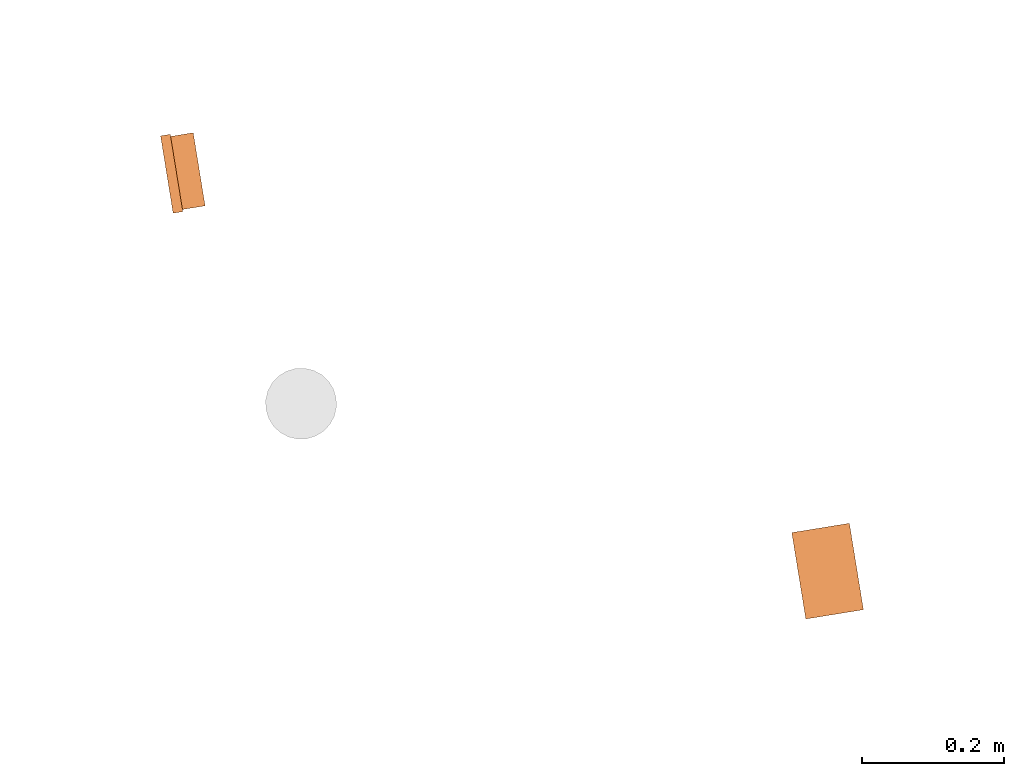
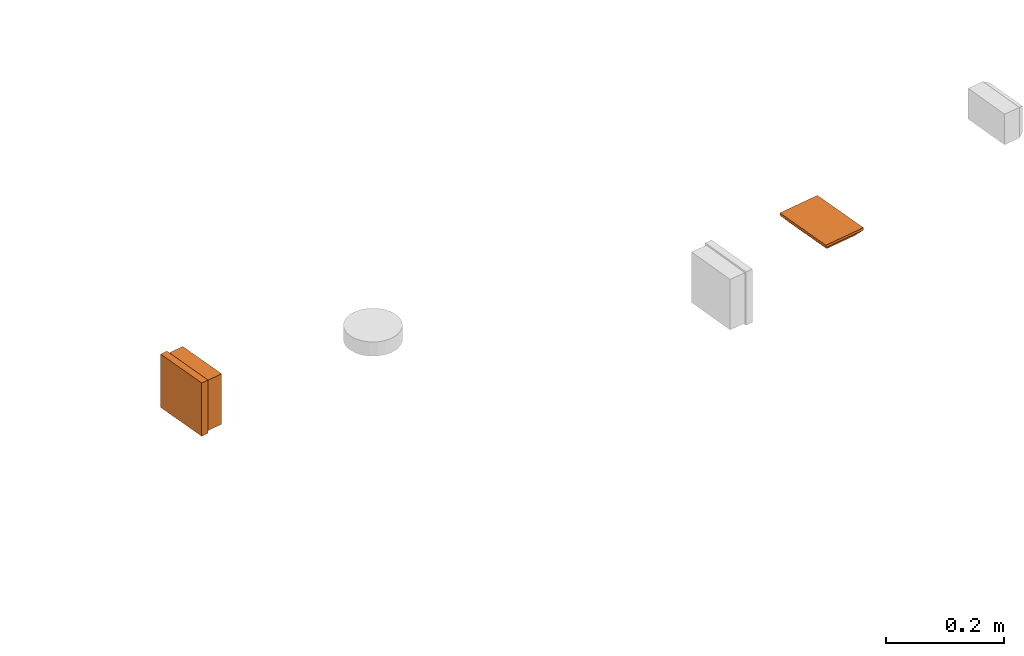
# One storey, part 21 of 33: 2 proxies.
"""IFC2X3 building model written with IfcOpenShell, lengths in millimetres."""

from ifc_helpers import new_model, entity, si_unit, converted_unit, derived_unit, direction, frame, frame_2d, origin, origin_with_axes, origin_2d_with_axis, place, context, subcontext, project, spatial, rectangle, extrude, faceted_brep, source, transform, mapped, material, type_object, element, save


model = new_model("IFC2X3")

# Units and contexts
plan_context = context("Plan", 3, precision=1e-05, world=origin_with_axes())
model_context = context("Model", 3, precision=0.01, world=origin(), true_north=direction((6.12323399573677e-17, 1.0)))
body_context = subcontext(model_context, "Body", "Model", "MODEL_VIEW")
ifc_project = project(units=[converted_unit("PLANEANGLEUNIT", "DEGREE", entity("IfcPositiveLengthMeasure", 0.0174532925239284), si_unit("PLANEANGLEUNIT", "RADIAN"), dimensions=[0, 0, 0, 0, 0, 0, 0]), si_unit("AREAUNIT", "SQUARE_METRE"), si_unit("LENGTHUNIT", "METRE", prefix="MILLI"), si_unit("MASSUNIT", "GRAM", prefix="KILO"), si_unit("POWERUNIT", "WATT"), si_unit("PRESSUREUNIT", "PASCAL", prefix="KILO"), si_unit("FORCEUNIT", "NEWTON", prefix="KILO"), si_unit("ELECTRICVOLTAGEUNIT", "VOLT"), si_unit("ELECTRICCURRENTUNIT", "AMPERE"), si_unit("THERMODYNAMICTEMPERATUREUNIT", "DEGREE_CELSIUS"), si_unit("TIMEUNIT", "SECOND"), si_unit("VOLUMEUNIT", "CUBIC_METRE"), derived_unit("LINEARVELOCITYUNIT", [(si_unit("LENGTHUNIT", "METRE"), 1), (si_unit("TIMEUNIT", "SECOND"), -1)]), derived_unit("VOLUMETRICFLOWRATEUNIT", [(si_unit("VOLUMEUNIT", "CUBIC_METRE"), 1), (si_unit("TIMEUNIT", "SECOND"), -1)]), derived_unit("THERMALTRANSMITTANCEUNIT", [(si_unit("POWERUNIT", "WATT"), 1), (si_unit("THERMODYNAMICTEMPERATUREUNIT", "KELVIN"), -1), (si_unit("AREAUNIT", "SQUARE_METRE"), -1)]), derived_unit("SOUNDPRESSUREUNIT", [(si_unit("PRESSUREUNIT", "PASCAL"), 1)])], contexts=[model_context, plan_context])

# Site, building, storey
site_placement = place(None, frame((-0.219946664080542, 0.12226179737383, 0.0), z_axis=(0.0, 0.0, 1.0), x_axis=(-0.160236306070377, 0.987078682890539, 0.0)))
site = spatial("IfcSite", under=ifc_project, at=site_placement, Name="Default", CompositionType="ELEMENT")
building_placement = place(site_placement, origin_with_axes())
building = spatial("IfcBuilding", under=site, at=building_placement, CompositionType="ELEMENT")
storey_placement = place(building_placement, frame((0.0, 0.0, 59000.0), z_axis=(0.0, 0.0, 1.0), x_axis=(1.0, 0.0, 0.0)))
storey = spatial("IfcBuildingStorey", under=building, at=storey_placement, Name="Nivå F", CompositionType="ELEMENT", Elevation=59000.0)

# Proxies
ifc_material = material(Name="<Unnamed>")
building_element_proxy_type_1 = type_object("IfcBuildingElementProxyType", Name="1612510-0001:Junction box1", PredefinedType="NOTDEFINED", material=ifc_material)
shared_shape_1 = source(origin(), body_context, "Body", "SweptSolid", [
    extrude(rectangle(XDim=110.0, YDim=13.8000001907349, at=frame_2d((0.0, 2.22044604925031e-15), x_axis=(1.0, 0.0))), frame((0.0, 39.1000008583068, -55.0)), (0.0, 0.0, 1.0), 110.0),
    extrude(rectangle(XDim=104.0, YDim=32.2000007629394, at=origin_2d_with_axis()), frame((0.0, 16.1000003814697, -52.0)), (0.0, 0.0, 1.0), 104.0),
])
proxy_1_placement = place(storey_placement, frame((780014.167317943, -501767.199558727, 2426.25354764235), z_axis=(0.0, 0.0, 1.0), x_axis=(1.0, 0.0, 0.0)))
element("IfcBuildingElementProxy", 1, at=proxy_1_placement, inside=storey, type_object=building_element_proxy_type_1, material=ifc_material, Name="1612510-0001:Junction box1", ObjectType="1612510-0001:Junction box1", context=body_context, shape_type="MappedRepresentation", body=[
    mapped(shared_shape_1, transform((0.0, 0.0, 0.0), scale=1.0)),
])
building_element_proxy_type_2 = type_object("IfcBuildingElementProxyType", Name="Dobbel stikk i tak m_boks 2P+J PH:Earthed reces socket c2", PredefinedType="NOTDEFINED", material=ifc_material)
shared_shape_2 = source(origin(), body_context, "Body", "Brep", [
    faceted_brep([(25.250000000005, -18.3000000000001, -17.8944271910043), (25.250000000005, -18.5954451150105, -17.489897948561), (25.250000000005, -18.7000000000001, -17.0), (25.250000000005, -18.7000000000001, -5.0), (25.250000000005, -19.5000000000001, -5.0), (25.250000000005, -19.5000000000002, -17.0), (25.250000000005, -18.9142135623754, -18.4142135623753), (25.250000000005, -17.5000000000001, -19.0), (25.250000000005, -17.5000000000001, -11.0), (25.250000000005, -18.3000000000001, -11.0), (24.250000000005, -19.5000000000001, -5.0), (24.250000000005, -18.7000000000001, -5.0), (24.250000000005, -18.7000000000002, -17.0), (24.250000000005, -18.5954451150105, -17.489897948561), (24.250000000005, -18.3000000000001, -17.8944271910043), (24.250000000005, -18.3000000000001, -11.0), (24.250000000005, -17.5000000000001, -11.0), (24.250000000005, -17.5000000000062, -19.0), (24.250000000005, -18.9142135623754, -18.4142135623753), (24.250000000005, -19.5000000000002, -17.0)], [[[0, 1, 2, 3, 4, 5, 6, 7, 8, 9]], [[10, 11, 12, 13, 14, 15, 16, 17, 18, 19]], [[11, 10, 4, 3]], [[12, 11, 3, 2]], [[2, 1, 13, 12]], [[0, 14, 13, 1]], [[15, 14, 0, 9]], [[16, 15, 9, 8]], [[17, 16, 8, 7]], [[17, 7, 6, 18]], [[6, 5, 19, 18]], [[10, 19, 5, 4]]]),
    faceted_brep([(24.250000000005, 18.3000000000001, -17.8944271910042), (24.250000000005, 18.5954451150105, -17.4898979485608), (24.250000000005, 18.7000000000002, -17.0), (24.250000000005, 18.7000000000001, -5.0), (24.250000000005, 19.5000000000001, -5.0), (24.250000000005, 19.5000000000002, -17.0), (24.250000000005, 18.9142135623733, -18.4142135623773), (24.250000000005, 17.5000000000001, -19.0), (24.250000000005, 17.5000000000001, -11.0), (24.250000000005, 18.3000000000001, -11.0), (25.250000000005, 19.5000000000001, -5.0), (25.250000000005, 18.7000000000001, -5.0), (25.250000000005, 18.7000000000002, -17.0), (25.250000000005, 18.5954451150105, -17.4898979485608), (25.250000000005, 18.3000000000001, -17.8944271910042), (25.250000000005, 18.3000000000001, -11.0), (25.250000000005, 17.5000000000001, -11.0), (25.250000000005, 17.5000000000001, -19.0), (25.250000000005, 18.9142135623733, -18.4142135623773), (25.250000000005, 19.5000000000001, -17.0)], [[[0, 1, 2, 3, 4, 5, 6, 7, 8, 9]], [[10, 11, 12, 13, 14, 15, 16, 17, 18, 19]], [[9, 8, 16, 15]], [[0, 9, 15, 14]], [[14, 13, 1, 0]], [[12, 2, 1, 13]], [[3, 2, 12, 11]], [[4, 3, 11, 10]], [[5, 4, 10, 19]], [[5, 19, 18, 6]], [[18, 17, 7, 6]], [[8, 7, 17, 16]]]),
    faceted_brep([(-25.249999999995, 18.9142135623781, -18.4142135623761), (-25.249999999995, 19.5000000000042, -17.0), (-25.249999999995, 19.5000000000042, -5.0), (-25.249999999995, 18.7000000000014, -5.0), (-25.249999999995, 18.7000000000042, -17.0), (-25.249999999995, 18.5954451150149, -17.4898979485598), (-25.249999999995, 18.3000000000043, -17.8944271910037), (-25.249999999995, 18.3000000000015, -11.0), (-25.249999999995, 17.5000000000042, -11.0), (-25.249999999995, 17.5000000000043, -19.0), (-26.249999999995, 19.5000000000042, -5.0), (-26.249999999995, 19.5000000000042, -17.0), (-26.249999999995, 18.9142135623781, -18.4142135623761), (-26.249999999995, 17.5000000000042, -19.0), (-26.249999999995, 17.5000000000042, -11.0), (-26.249999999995, 18.3000000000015, -11.0), (-26.249999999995, 18.3000000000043, -17.8944271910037), (-26.249999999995, 18.5954451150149, -17.4898979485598), (-26.249999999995, 18.7000000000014, -17.0), (-26.249999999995, 18.7000000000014, -5.0)], [[[0, 1, 2, 3, 4, 5, 6, 7, 8, 9]], [[10, 11, 12, 13, 14, 15, 16, 17, 18, 19]], [[11, 10, 2, 1]], [[11, 1, 0, 12]], [[0, 9, 13, 12]], [[14, 13, 9, 8]], [[16, 15, 7, 6]], [[6, 5, 17, 16]], [[4, 18, 17, 5]], [[19, 18, 4, 3]], [[10, 19, 3, 2]], [[15, 14, 8, 7]]]),
    faceted_brep([(-26.249999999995, -17.4999999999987, -5.0), (-26.249999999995, -17.4999999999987, -19.0), (-26.249999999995, -18.9142135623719, -18.4142135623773), (-26.249999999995, -19.4999999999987, -17.0), (-26.249999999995, -19.4999999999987, -11.0), (-26.249999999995, -18.6999999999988, -11.0), (-26.249999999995, -18.6999999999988, -17.0), (-26.249999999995, -18.5954451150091, -17.4898979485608), (-26.249999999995, -18.2999999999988, -17.8944271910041), (-26.249999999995, -18.2999999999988, -5.0), (-25.249999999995, -17.4999999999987, -19.0), (-25.249999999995, -17.4999999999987, -5.0), (-25.249999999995, -18.2999999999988, -5.0), (-25.249999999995, -18.2999999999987, -17.8944271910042), (-25.249999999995, -18.5954451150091, -17.4898979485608), (-25.249999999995, -18.6999999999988, -17.0), (-25.249999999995, -18.6999999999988, -11.0), (-25.249999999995, -19.4999999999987, -11.0), (-25.249999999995, -19.4999999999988, -17.0), (-25.249999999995, -18.9142135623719, -18.4142135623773)], [[[0, 1, 2, 3, 4, 5, 6, 7, 8, 9]], [[10, 11, 12, 13, 14, 15, 16, 17, 18, 19]], [[1, 0, 11, 10]], [[10, 19, 2, 1]], [[2, 19, 18, 3]], [[4, 3, 18, 17]], [[5, 4, 17, 16]], [[6, 5, 16, 15]], [[14, 7, 6, 15]], [[13, 8, 7, 14]], [[9, 8, 13, 12]], [[0, 9, 12, 11]]]),
    faceted_brep([(15.7500000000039, -2.5, -5.0), (16.3750000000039, -1.875, -5.0), (17.0, -1.25, -5.0), (17.6250000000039, -0.625000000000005, -5.0), (18.2500000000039, 0.0, -5.0), (17.7008289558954, 0.54917104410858, -5.0), (17.0, 1.25, -5.0), (16.375000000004, 1.875, -5.0), (15.750000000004, 2.5, -5.0), (15.125000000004, 1.87500000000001, -5.0), (14.500000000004, 1.25000000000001, -5.0), (13.8750000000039, 0.625000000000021, -5.0), (13.2500000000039, 0.0, -5.0), (13.7991710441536, -0.549171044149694, -5.0), (14.5000000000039, -1.25, -5.0), (15.1250000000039, -1.875, -5.0), (17.7008289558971, -0.549171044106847, -5.20000000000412), (17.1516579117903, -1.09834208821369, -5.20000000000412), (16.4508289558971, -1.79917104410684, -5.20000000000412), (15.7500000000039, -2.5, -5.20000000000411), (15.1250000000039, -1.875, -5.20000000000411), (14.5000000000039, -1.25, -5.20000000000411), (13.8750000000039, -0.625, -5.20000000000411), (13.2500000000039, 0.0, -5.2000000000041), (13.7991710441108, 0.54917104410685, -5.20000000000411), (14.3483420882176, 1.09834208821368, -5.20000000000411), (15.0491710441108, 1.79917104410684, -5.20000000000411), (15.750000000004, 2.5, -5.20000000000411), (16.375000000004, 1.875, -5.20000000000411), (17.0, 1.25, -5.20000000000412), (17.6250000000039, 0.624999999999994, -5.20000000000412), (18.2500000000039, 0.0, -5.20000000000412)], [[[0, 1, 2, 3, 4, 5, 6, 7, 8, 9, 10, 11, 12, 13, 14, 15]], [[16, 17, 18, 19, 20, 21, 22, 23, 24, 25, 26, 27, 28, 29, 30, 31]], [[29, 28, 27, 8, 7, 6, 5, 4, 31, 30]], [[8, 27, 26, 25, 24, 23, 12, 11, 10, 9]], [[21, 20, 19, 0, 15, 14, 13, 12, 23, 22]], [[0, 19, 18, 17, 16, 31, 4, 3, 2, 1]]]),
    faceted_brep([(35.0491710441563, -1.79917104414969, -5.20000000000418), (34.348342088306, -1.09834208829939, -5.20000000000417), (33.7991710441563, -0.549171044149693, -5.20000000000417), (33.2500000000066, 0.0, -5.20000000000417), (33.8750000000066, 0.625000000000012, -5.20000000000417), (34.5000000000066, 1.25000000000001, -5.20000000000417), (35.1250000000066, 1.875, -5.20000000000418), (35.7500000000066, 2.5, -5.20000000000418), (36.450828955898, 1.79917104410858, -5.20000000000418), (37.1516579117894, 1.09834208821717, -5.20000000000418), (37.700828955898, 0.54917104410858, -5.20000000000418), (38.2500000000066, 0.0, -5.20000000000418), (37.6250000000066, -0.625000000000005, -5.20000000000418), (37.0, -1.25, -5.20000000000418), (36.3750000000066, -1.875, -5.20000000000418), (35.7500000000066, -2.5, -5.20000000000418), (35.1250000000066, 1.87500000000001, -5.0), (34.5000000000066, 1.25000000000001, -5.0), (33.7991710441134, 0.549171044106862, -5.0), (33.2500000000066, 0.0, -5.0), (33.8750000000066, -0.625, -5.0), (34.5000000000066, -1.25, -5.0), (35.1250000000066, -1.875, -5.0), (35.7500000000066, -2.5, -5.0), (36.3750000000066, -1.875, -5.0), (37.0, -1.25, -5.0), (37.7008289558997, -0.549171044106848, -5.0), (38.2500000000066, 0.0, -5.0), (37.6250000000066, 0.624999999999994, -5.0), (37.0, 1.25, -5.0), (36.3750000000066, 1.875, -5.0), (35.7500000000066, 2.5, -5.0)], [[[0, 1, 2, 3, 4, 5, 6, 7, 8, 9, 10, 11, 12, 13, 14, 15]], [[16, 17, 18, 19, 20, 21, 22, 23, 24, 25, 26, 27, 28, 29, 30, 31]], [[30, 29, 28, 27, 11, 10, 9, 8, 7, 31]], [[31, 7, 6, 5, 4, 3, 19, 18, 17, 16]], [[22, 21, 20, 19, 3, 2, 1, 0, 15, 23]], [[23, 15, 14, 13, 12, 11, 27, 26, 25, 24]]]),
    faceted_brep([(-36.3749999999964, 1.87500000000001, -5.0), (-37.0, 1.25000000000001, -5.0), (-37.6249999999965, 0.625000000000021, -5.0), (-38.2499999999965, 0.0, -5.0), (-37.7008289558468, -0.549171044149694, -5.0), (-37.0, -1.25, -5.0), (-36.3749999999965, -1.875, -5.0), (-35.7499999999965, -2.5, -5.0), (-35.1249999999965, -1.875, -5.0), (-34.4999999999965, -1.25, -5.0), (-33.8749999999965, -0.625000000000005, -5.0), (-33.2499999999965, 0.0, -5.0), (-33.799171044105, 0.54917104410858, -5.0), (-34.4999999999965, 1.25, -5.0), (-35.1249999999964, 1.875, -5.0), (-35.7499999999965, 2.5, -5.0), (-36.3749999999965, -1.875, -5.20000000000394), (-37.0, -1.25, -5.20000000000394), (-37.6249999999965, -0.625, -5.20000000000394), (-38.2499999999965, 0.0, -5.20000000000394), (-37.7008289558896, 0.54917104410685, -5.20000000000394), (-37.1516579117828, 1.09834208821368, -5.20000000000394), (-36.4508289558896, 1.79917104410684, -5.20000000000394), (-35.7499999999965, 2.5, -5.20000000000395), (-35.1249999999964, 1.875, -5.20000000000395), (-34.4999999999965, 1.25, -5.20000000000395), (-33.8749999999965, 0.624999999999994, -5.20000000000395), (-33.2499999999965, 0.0, -5.20000000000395), (-33.7991710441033, -0.549171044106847, -5.20000000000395), (-34.3483420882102, -1.09834208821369, -5.20000000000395), (-35.0491710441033, -1.79917104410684, -5.20000000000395), (-35.7499999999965, -2.5, -5.20000000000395)], [[[0, 1, 2, 3, 4, 5, 6, 7, 8, 9, 10, 11, 12, 13, 14, 15]], [[16, 17, 18, 19, 20, 21, 22, 23, 24, 25, 26, 27, 28, 29, 30, 31]], [[25, 24, 23, 15, 14, 13, 12, 11, 27, 26]], [[15, 23, 22, 21, 20, 19, 3, 2, 1, 0]], [[17, 16, 31, 7, 6, 5, 4, 3, 19, 18]], [[7, 31, 30, 29, 28, 27, 11, 10, 9, 8]]]),
    faceted_brep([(-16.4508289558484, -1.79917104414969, -5.20000000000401), (-17.1516579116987, -1.09834208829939, -5.20000000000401), (-17.7008289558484, -0.549171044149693, -5.200000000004), (-18.2499999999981, 0.0, -5.200000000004), (-17.6249999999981, 0.625000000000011, -5.200000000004), (-17.0, 1.25000000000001, -5.20000000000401), (-16.3749999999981, 1.875, -5.20000000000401), (-15.7499999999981, 2.5, -5.20000000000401), (-15.0491710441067, 1.79917104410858, -5.20000000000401), (-14.3483420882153, 1.09834208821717, -5.20000000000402), (-13.7991710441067, 0.549171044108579, -5.20000000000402), (-13.2499999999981, 0.0, -5.20000000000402), (-13.8749999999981, -0.625000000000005, -5.20000000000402), (-14.4999999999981, -1.25, -5.20000000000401), (-15.1249999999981, -1.875, -5.20000000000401), (-15.7499999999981, -2.5, -5.20000000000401), (-16.3749999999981, 1.87500000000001, -5.0), (-17.0, 1.25000000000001, -5.0), (-17.7008289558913, 0.549171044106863, -5.0), (-18.2499999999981, 0.0, -5.0), (-17.6249999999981, -0.625, -5.0), (-17.0, -1.25, -5.0), (-16.3749999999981, -1.875, -5.0), (-15.7499999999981, -2.5, -5.0), (-15.1249999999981, -1.875, -5.0), (-14.4999999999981, -1.25, -5.0), (-13.799171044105, -0.549171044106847, -5.0), (-13.2499999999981, 0.0, -5.0), (-13.8749999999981, 0.624999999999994, -5.0), (-14.4999999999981, 1.25, -5.0), (-15.1249999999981, 1.875, -5.0), (-15.7499999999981, 2.5, -5.0)], [[[0, 1, 2, 3, 4, 5, 6, 7, 8, 9, 10, 11, 12, 13, 14, 15]], [[16, 17, 18, 19, 20, 21, 22, 23, 24, 25, 26, 27, 28, 29, 30, 31]], [[30, 29, 28, 27, 11, 10, 9, 8, 7, 31]], [[31, 7, 6, 5, 4, 3, 19, 18, 17, 16]], [[22, 21, 20, 19, 3, 2, 1, 0, 15, 23]], [[23, 15, 14, 13, 12, 11, 27, 26, 25, 24]]]),
    faceted_brep([(-51.5000000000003, -31.0, -17.0), (-35.7500000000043, -17.3205080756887, -17.0), (-30.9263809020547, -19.3185165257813, -17.0), (-39.8921356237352, -14.1421356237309, -17.0), (-25.750000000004, -20.0, -17.0), (-20.5736190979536, -19.3185165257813, -17.0), (20.5736190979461, -19.3185165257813, -17.0), (-43.070508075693, -10.0, -17.0), (-45.0685165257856, -5.1763809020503, -17.0), (-45.7500000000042, 0.0, -17.0), (51.5000000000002, -31.0, -17.0), (-51.5000000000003, 31.0, -17.0), (-45.0685165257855, 5.17638090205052, -17.0), (-43.0705080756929, 10.0, -17.0), (-39.892135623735, 14.142135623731, -17.0), (-35.7500000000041, 17.3205080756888, -17.0), (-30.9263809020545, 19.3185165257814, -17.0), (-25.7500000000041, 20.0, -17.0), (-20.5736190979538, 19.3185165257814, -17.0), (20.5736190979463, 19.3185165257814, -17.0), (51.5000000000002, 31.0, -17.0), (25.7499999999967, 20.0, -17.0), (30.926380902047, 19.3185165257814, -17.0), (35.7499999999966, 17.3205080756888, -17.0), (39.8921356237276, 14.142135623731, -17.0), (43.0705080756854, 10.0, -17.0), (45.068516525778, 5.1763809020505, -17.0), (45.7499999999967, 0.0, -17.0), (25.7499999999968, -20.0, -17.0), (30.9263809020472, -19.3185165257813, -17.0), (35.7499999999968, -17.3205080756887, -17.0), (39.8921356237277, -14.1421356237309, -17.0), (43.0705080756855, -10.0, -17.0), (45.0685165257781, -5.17638090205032, -17.0), (15.7499999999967, 17.3205080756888, -17.0), (-15.7500000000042, 17.3205080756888, -17.0), (11.6078643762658, 14.142135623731, -17.0), (-11.6078643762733, 14.142135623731, -17.0), (8.42949192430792, 10.0, -17.0), (-8.42949192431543, 10.0, -17.0), (6.4314834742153, 5.17638090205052, -17.0), (-6.43148347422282, 5.1763809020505, -17.0), (-5.75000000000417, 0.0, -17.0), (5.74999999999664, 0.0, -17.0), (6.43148347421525, -5.1763809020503, -17.0), (-6.43148347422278, -5.17638090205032, -17.0), (-8.42949192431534, -10.0, -17.0), (8.42949192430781, -10.0, -17.0), (-11.6078643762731, -14.1421356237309, -17.0), (11.6078643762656, -14.1421356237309, -17.0), (-15.7500000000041, -17.3205080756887, -17.0), (15.7499999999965, -17.3205080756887, -17.0), (61.5000000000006, -41.0, -5.0), (35.7499999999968, -17.3205080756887, -5.0), (30.9263809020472, -19.3185165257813, -5.0), (39.8921356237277, -14.1421356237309, -5.0), (25.7499999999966, -20.0, -5.0), (20.5736190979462, -19.3185165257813, -5.0), (-20.5736190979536, -19.3185165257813, -5.0), (43.0705080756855, -10.0, -5.0), (45.0685165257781, -5.17638090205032, -5.0), (45.7499999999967, 0.0, -5.0), (-61.5000000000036, -41.0, -5.0), (61.5000000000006, 41.0, -5.0), (45.068516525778, 5.1763809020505, -5.0), (43.0705080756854, 10.0, -5.0), (39.8921356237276, 14.142135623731, -5.0), (35.7499999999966, 17.3205080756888, -5.0), (30.9263809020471, 19.3185165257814, -5.0), (25.7499999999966, 20.0, -5.0), (20.5736190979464, 19.3185165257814, -5.0), (-20.5736190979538, 19.3185165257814, -5.0), (-61.5000000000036, 41.0, -5.0), (-25.7500000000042, 20.0, -5.0), (-30.9263809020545, 19.3185165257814, -5.0), (-35.750000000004, 17.3205080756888, -5.0), (-39.892135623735, 14.142135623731, -5.0), (-43.0705080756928, 10.0, -5.0), (-45.0685165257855, 5.17638090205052, -5.0), (-45.7500000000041, 0.0, -5.0), (-25.7500000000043, -20.0, -5.0), (-30.9263809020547, -19.3185165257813, -5.0), (-35.7500000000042, -17.3205080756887, -5.0), (-39.8921356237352, -14.1421356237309, -5.0), (-43.070508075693, -10.0, -5.0), (-45.0685165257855, -5.1763809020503, -5.0), (-15.7500000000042, 17.3205080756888, -5.0), (15.7499999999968, 17.3205080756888, -5.0), (-11.6078643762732, 14.142135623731, -5.0), (11.6078643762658, 14.142135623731, -5.0), (-8.4294919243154, 10.0, -5.0), (8.42949192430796, 10.0, -5.0), (-6.43148347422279, 5.1763809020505, -5.0), (6.43148347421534, 5.17638090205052, -5.0), (5.74999999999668, 0.0, -5.0), (-5.75000000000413, 0.0, -5.0), (-6.43148347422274, -5.17638090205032, -5.0), (6.43148347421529, -5.1763809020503, -5.0), (8.42949192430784, -10.0, -5.0), (-8.4294919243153, -10.0, -5.0), (11.6078643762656, -14.1421356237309, -5.0), (-11.6078643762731, -14.1421356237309, -5.0), (15.7499999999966, -17.3205080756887, -5.0), (-15.750000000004, -17.3205080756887, -5.0)], [[[0, 1, 2]], [[1, 0, 3]], [[0, 2, 4]], [[4, 5, 0]], [[0, 5, 6]], [[7, 3, 0]], [[8, 7, 0]], [[0, 9, 8]], [[6, 10, 0]], [[9, 0, 11]], [[12, 9, 11]], [[13, 12, 11]], [[11, 14, 13]], [[14, 11, 15]], [[15, 11, 16]], [[17, 16, 11]], [[18, 17, 11]], [[11, 19, 18]], [[19, 11, 20]], [[21, 19, 20]], [[20, 22, 21]], [[22, 20, 23]], [[24, 23, 20]], [[24, 20, 25]], [[26, 25, 20]], [[27, 26, 20]], [[27, 20, 10]], [[6, 28, 10]], [[29, 10, 28]], [[10, 29, 30]], [[10, 30, 31]], [[31, 32, 10]], [[32, 33, 10]], [[10, 33, 27]], [[19, 34, 18]], [[35, 18, 34]], [[36, 35, 34]], [[37, 35, 36]], [[36, 38, 37]], [[39, 37, 38]], [[38, 40, 39]], [[41, 39, 40]], [[40, 42, 41]], [[42, 40, 43]], [[43, 44, 42]], [[45, 42, 44]], [[46, 45, 44]], [[44, 47, 46]], [[48, 46, 47]], [[47, 49, 48]], [[50, 48, 49]], [[51, 50, 49]], [[5, 50, 51]], [[51, 6, 5]], [[52, 53, 54]], [[53, 52, 55]], [[52, 54, 56]], [[56, 57, 52]], [[52, 57, 58]], [[59, 55, 52]], [[60, 59, 52]], [[52, 61, 60]], [[58, 62, 52]], [[61, 52, 63]], [[64, 61, 63]], [[65, 64, 63]], [[63, 66, 65]], [[66, 63, 67]], [[67, 63, 68]], [[69, 68, 63]], [[70, 69, 63]], [[70, 63, 71]], [[63, 72, 71]], [[73, 71, 72]], [[72, 74, 73]], [[74, 72, 75]], [[76, 75, 72]], [[76, 72, 77]], [[78, 77, 72]], [[79, 78, 72]], [[79, 72, 62]], [[58, 80, 62]], [[81, 62, 80]], [[62, 81, 82]], [[62, 82, 83]], [[83, 84, 62]], [[84, 85, 62]], [[62, 85, 79]], [[86, 70, 71]], [[86, 87, 70]], [[88, 87, 86]], [[89, 87, 88]], [[88, 90, 89]], [[91, 89, 90]], [[90, 92, 91]], [[93, 91, 92]], [[92, 94, 93]], [[94, 92, 95]], [[95, 96, 94]], [[97, 94, 96]], [[98, 97, 96]], [[96, 99, 98]], [[100, 98, 99]], [[99, 101, 100]], [[102, 100, 101]], [[103, 102, 101]], [[103, 57, 102]], [[58, 57, 103]], [[20, 63, 52, 10]], [[11, 72, 63, 20]], [[0, 62, 72, 11]], [[10, 52, 62, 0]], [[73, 17, 18, 71]], [[71, 18, 35, 86]], [[90, 88, 37, 39]], [[37, 88, 86, 35]], [[92, 90, 39, 41]], [[92, 41, 42, 95]], [[95, 42, 45, 96]], [[96, 45, 46, 99]], [[103, 101, 48, 50]], [[48, 101, 99, 46]], [[58, 103, 50, 5]], [[58, 5, 4, 80]], [[80, 4, 2, 81]], [[81, 2, 1, 82]], [[84, 83, 3, 7]], [[3, 83, 82, 1]], [[85, 84, 7, 8]], [[85, 8, 9, 79]], [[79, 9, 12, 78]], [[78, 12, 13, 77]], [[75, 76, 14, 15]], [[14, 76, 77, 13]], [[74, 75, 15, 16]], [[74, 16, 17, 73]], [[69, 21, 22, 68]], [[68, 22, 23, 67]], [[65, 66, 24, 25]], [[23, 24, 66, 67]], [[64, 65, 25, 26]], [[27, 61, 64, 26]], [[60, 33, 32, 59]], [[59, 32, 31, 55]], [[54, 53, 30, 29]], [[31, 30, 53, 55]], [[56, 54, 29, 28]], [[60, 61, 27, 33]], [[56, 28, 6, 57]], [[57, 6, 51, 102]], [[98, 100, 49, 47]], [[51, 49, 100, 102]], [[97, 98, 47, 44]], [[43, 94, 97, 44]], [[93, 40, 38, 91]], [[91, 38, 36, 89]], [[70, 87, 34, 19]], [[36, 34, 87, 89]], [[69, 70, 19, 21]], [[93, 94, 43, 40]]]),
    faceted_brep([(61.5000000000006, -41.0, 0.0), (61.5000000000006, 41.0, 0.0), (-61.5000000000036, 41.0, 0.0), (-61.5000000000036, -41.0, 0.0), (61.5000000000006, -41.0, -5.0), (-61.5000000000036, -41.0, -5.0), (-61.5000000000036, 41.0, -5.0), (61.5000000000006, 41.0, -5.0)], [[[0, 1, 2, 3]], [[4, 5, 6, 7]], [[1, 0, 4, 7]], [[2, 1, 7, 6]], [[3, 2, 6, 5]], [[0, 3, 5, 4]]]),
])
proxy_2_placement = place(storey_placement, frame((779315.422163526, -502548.207495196, 2800.0), z_axis=(0.0, 0.0, 1.0), x_axis=(1.0, 0.0, 0.0)))
element("IfcBuildingElementProxy", 2, at=proxy_2_placement, inside=storey, type_object=building_element_proxy_type_2, material=ifc_material, Name="Dobbel stikk i tak m_boks 2P+J PH:Earthed reces socket c2", ObjectType="Dobbel stikk i tak m_boks 2P+J PH:Earthed reces socket c2", context=body_context, shape_type="MappedRepresentation", body=[
    mapped(shared_shape_2, transform((0.0, 0.0, 0.0), scale=1.0)),
])

save(model, "model.ifc")
